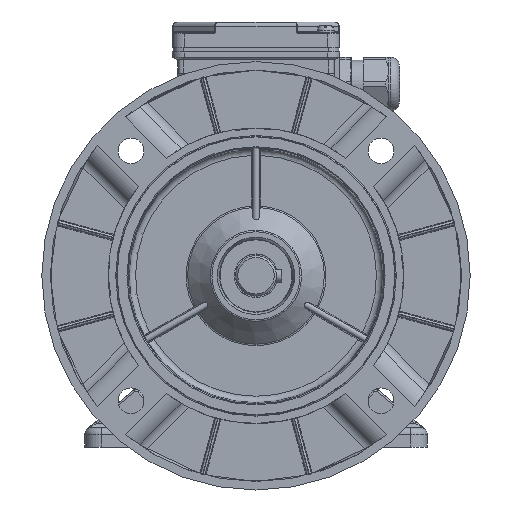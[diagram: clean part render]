
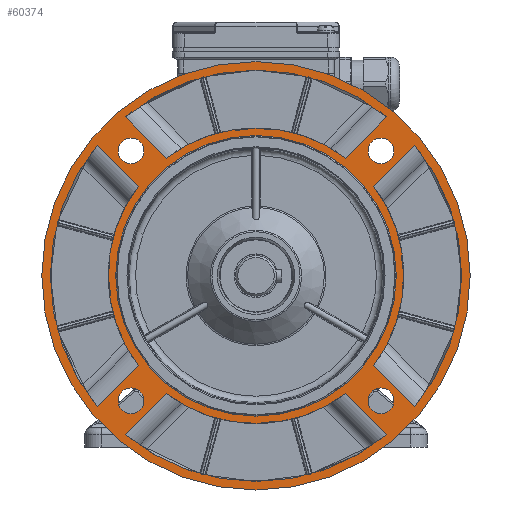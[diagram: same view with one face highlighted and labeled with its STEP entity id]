
A CAD part, left-side view. The second image highlights one B-rep face of the part: STEP entity #60374.
In plain terms, the highlighted planar face has unit normal (-1, 0, 0).
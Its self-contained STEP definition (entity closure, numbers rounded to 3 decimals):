
#2186=LINE('',#87335,#5763);
#2187=LINE('',#87340,#5764);
#2188=LINE('',#87343,#5765);
#2189=LINE('',#87348,#5766);
#2190=LINE('',#87353,#5767);
#2191=LINE('',#87358,#5768);
#2192=LINE('',#87361,#5769);
#2193=LINE('',#87366,#5770);
#5763=VECTOR('',#69918,1000.);
#5764=VECTOR('',#69921,1000.);
#5765=VECTOR('',#69924,1000.);
#5766=VECTOR('',#69927,1000.);
#5767=VECTOR('',#69932,1000.);
#5768=VECTOR('',#69935,1000.);
#5769=VECTOR('',#69938,1000.);
#5770=VECTOR('',#69941,1000.);
#9053=PLANE('',#63390);
#13565=ORIENTED_EDGE('',*,*,#25287,.T.);
#13566=ORIENTED_EDGE('',*,*,#25288,.T.);
#13567=ORIENTED_EDGE('',*,*,#25289,.T.);
#13568=ORIENTED_EDGE('',*,*,#25290,.T.);
#13569=ORIENTED_EDGE('',*,*,#25291,.T.);
#13570=ORIENTED_EDGE('',*,*,#25292,.T.);
#13571=ORIENTED_EDGE('',*,*,#25293,.T.);
#13572=ORIENTED_EDGE('',*,*,#25294,.T.);
#13573=ORIENTED_EDGE('',*,*,#25249,.F.);
#13574=ORIENTED_EDGE('',*,*,#25248,.F.);
#13575=ORIENTED_EDGE('',*,*,#25247,.F.);
#13576=ORIENTED_EDGE('',*,*,#25246,.F.);
#13577=ORIENTED_EDGE('',*,*,#25295,.T.);
#13578=ORIENTED_EDGE('',*,*,#25286,.T.);
#13579=ORIENTED_EDGE('',*,*,#25296,.T.);
#13580=ORIENTED_EDGE('',*,*,#25297,.T.);
#13581=ORIENTED_EDGE('',*,*,#25298,.T.);
#13582=ORIENTED_EDGE('',*,*,#25299,.T.);
#13583=ORIENTED_EDGE('',*,*,#25300,.T.);
#13584=ORIENTED_EDGE('',*,*,#25301,.T.);
#13585=ORIENTED_EDGE('',*,*,#25302,.T.);
#13586=ORIENTED_EDGE('',*,*,#25303,.T.);
#25246=EDGE_CURVE('',#31360,#31360,#35194,.T.);
#25247=EDGE_CURVE('',#31361,#31361,#35195,.T.);
#25248=EDGE_CURVE('',#31362,#31362,#35196,.T.);
#25249=EDGE_CURVE('',#31363,#31363,#35197,.T.);
#25286=EDGE_CURVE('',#31384,#31384,#35207,.T.);
#25287=EDGE_CURVE('',#31385,#31386,#2186,.T.);
#25288=EDGE_CURVE('',#31386,#31387,#35208,.T.);
#25289=EDGE_CURVE('',#31387,#31388,#2187,.T.);
#25290=EDGE_CURVE('',#31388,#31385,#35209,.T.);
#25291=EDGE_CURVE('',#31389,#31390,#2188,.T.);
#25292=EDGE_CURVE('',#31390,#31391,#35210,.T.);
#25293=EDGE_CURVE('',#31391,#31392,#2189,.T.);
#25294=EDGE_CURVE('',#31392,#31389,#35211,.T.);
#25295=EDGE_CURVE('',#31393,#31393,#35212,.F.);
#25296=EDGE_CURVE('',#31394,#31395,#2190,.T.);
#25297=EDGE_CURVE('',#31395,#31396,#35213,.T.);
#25298=EDGE_CURVE('',#31396,#31397,#2191,.T.);
#25299=EDGE_CURVE('',#31397,#31394,#35214,.T.);
#25300=EDGE_CURVE('',#31398,#31399,#2192,.T.);
#25301=EDGE_CURVE('',#31399,#31400,#35215,.T.);
#25302=EDGE_CURVE('',#31400,#31401,#2193,.T.);
#25303=EDGE_CURVE('',#31401,#31398,#35216,.T.);
#31360=VERTEX_POINT('',#87177);
#31361=VERTEX_POINT('',#87180);
#31362=VERTEX_POINT('',#87183);
#31363=VERTEX_POINT('',#87186);
#31384=VERTEX_POINT('',#87333);
#31385=VERTEX_POINT('',#87336);
#31386=VERTEX_POINT('',#87337);
#31387=VERTEX_POINT('',#87339);
#31388=VERTEX_POINT('',#87341);
#31389=VERTEX_POINT('',#87344);
#31390=VERTEX_POINT('',#87345);
#31391=VERTEX_POINT('',#87347);
#31392=VERTEX_POINT('',#87349);
#31393=VERTEX_POINT('',#87352);
#31394=VERTEX_POINT('',#87354);
#31395=VERTEX_POINT('',#87355);
#31396=VERTEX_POINT('',#87357);
#31397=VERTEX_POINT('',#87359);
#31398=VERTEX_POINT('',#87362);
#31399=VERTEX_POINT('',#87363);
#31400=VERTEX_POINT('',#87365);
#31401=VERTEX_POINT('',#87367);
#35194=CIRCLE('',#63354,6.);
#35195=CIRCLE('',#63356,6.);
#35196=CIRCLE('',#63358,6.);
#35197=CIRCLE('',#63360,6.);
#35207=CIRCLE('',#63389,100.);
#35208=CIRCLE('',#63391,69.);
#35209=CIRCLE('',#63392,96.);
#35210=CIRCLE('',#63393,69.);
#35211=CIRCLE('',#63394,96.);
#35212=CIRCLE('',#63395,65.5);
#35213=CIRCLE('',#63396,69.);
#35214=CIRCLE('',#63397,96.);
#35215=CIRCLE('',#63398,69.);
#35216=CIRCLE('',#63399,96.);
#37385=EDGE_LOOP('',(#13565,#13566,#13567,#13568));
#37386=EDGE_LOOP('',(#13569,#13570,#13571,#13572));
#37387=EDGE_LOOP('',(#13573));
#37388=EDGE_LOOP('',(#13574));
#37389=EDGE_LOOP('',(#13575));
#37390=EDGE_LOOP('',(#13576));
#37391=EDGE_LOOP('',(#13577));
#37392=EDGE_LOOP('',(#13578));
#37393=EDGE_LOOP('',(#13579,#13580,#13581,#13582));
#37394=EDGE_LOOP('',(#13583,#13584,#13585,#13586));
#40388=FACE_BOUND('',#37385,.T.);
#40389=FACE_BOUND('',#37386,.T.);
#40390=FACE_BOUND('',#37387,.T.);
#40391=FACE_BOUND('',#37388,.T.);
#40392=FACE_BOUND('',#37389,.T.);
#40393=FACE_BOUND('',#37390,.T.);
#40394=FACE_BOUND('',#37391,.T.);
#40395=FACE_BOUND('',#37392,.T.);
#40396=FACE_BOUND('',#37393,.T.);
#40397=FACE_BOUND('',#37394,.T.);
#60374=ADVANCED_FACE('',(#40388,#40389,#40390,#40391,#40392,#40393,#40394,
#40395,#40396,#40397),#9053,.T.);
#63354=AXIS2_PLACEMENT_3D('',#87176,#69828,#69829);
#63356=AXIS2_PLACEMENT_3D('',#87179,#69832,#69833);
#63358=AXIS2_PLACEMENT_3D('',#87182,#69836,#69837);
#63360=AXIS2_PLACEMENT_3D('',#87185,#69840,#69841);
#63389=AXIS2_PLACEMENT_3D('',#87332,#69914,#69915);
#63390=AXIS2_PLACEMENT_3D('',#87334,#69916,#69917);
#63391=AXIS2_PLACEMENT_3D('',#87338,#69919,#69920);
#63392=AXIS2_PLACEMENT_3D('',#87342,#69922,#69923);
#63393=AXIS2_PLACEMENT_3D('',#87346,#69925,#69926);
#63394=AXIS2_PLACEMENT_3D('',#87350,#69928,#69929);
#63395=AXIS2_PLACEMENT_3D('',#87351,#69930,#69931);
#63396=AXIS2_PLACEMENT_3D('',#87356,#69933,#69934);
#63397=AXIS2_PLACEMENT_3D('',#87360,#69936,#69937);
#63398=AXIS2_PLACEMENT_3D('',#87364,#69939,#69940);
#63399=AXIS2_PLACEMENT_3D('',#87368,#69942,#69943);
#69828=DIRECTION('',(-1.,0.,0.));
#69829=DIRECTION('',(0.,-1.,0.));
#69832=DIRECTION('',(-1.,0.,0.));
#69833=DIRECTION('',(0.,-1.,0.));
#69836=DIRECTION('',(-1.,0.,0.));
#69837=DIRECTION('',(0.,-1.,0.));
#69840=DIRECTION('',(-1.,0.,0.));
#69841=DIRECTION('',(0.,-1.,0.));
#69914=DIRECTION('',(-1.,0.,0.));
#69915=DIRECTION('',(0.,0.,-1.));
#69916=DIRECTION('',(-1.,0.,0.));
#69917=DIRECTION('',(0.,0.,-1.));
#69918=DIRECTION('',(0.,-0.707,-0.707));
#69919=DIRECTION('',(-1.,0.,0.));
#69920=DIRECTION('',(0.,-1.,0.));
#69921=DIRECTION('',(0.,0.707,-0.707));
#69922=DIRECTION('',(1.,0.,0.));
#69923=DIRECTION('',(0.,-1.,0.));
#69924=DIRECTION('',(0.,0.707,0.707));
#69925=DIRECTION('',(-1.,0.,0.));
#69926=DIRECTION('',(0.,1.,0.));
#69927=DIRECTION('',(0.,-0.707,0.707));
#69928=DIRECTION('',(1.,0.,0.));
#69929=DIRECTION('',(0.,1.,0.));
#69930=DIRECTION('',(-1.,0.,0.));
#69931=DIRECTION('',(0.,0.,-1.));
#69932=DIRECTION('',(0.,-0.707,0.707));
#69933=DIRECTION('',(-1.,0.,0.));
#69934=DIRECTION('',(0.,0.,1.));
#69935=DIRECTION('',(0.,-0.707,-0.707));
#69936=DIRECTION('',(1.,0.,0.));
#69937=DIRECTION('',(0.,0.,1.));
#69938=DIRECTION('',(0.,0.707,-0.707));
#69939=DIRECTION('',(-1.,0.,0.));
#69940=DIRECTION('',(0.,0.,-1.));
#69941=DIRECTION('',(0.,0.707,0.707));
#69942=DIRECTION('',(1.,0.,0.));
#69943=DIRECTION('',(0.,0.,-1.));
#87176=CARTESIAN_POINT('',(-44.8,58.336,58.336));
#87177=CARTESIAN_POINT('',(-44.8,52.336,58.336));
#87179=CARTESIAN_POINT('',(-44.8,-58.336,58.336));
#87180=CARTESIAN_POINT('',(-44.8,-64.336,58.336));
#87182=CARTESIAN_POINT('',(-44.8,-58.336,-58.336));
#87183=CARTESIAN_POINT('',(-44.8,-64.336,-58.336));
#87185=CARTESIAN_POINT('',(-44.8,58.336,-58.336));
#87186=CARTESIAN_POINT('',(-44.8,52.336,-58.336));
#87332=CARTESIAN_POINT('',(-44.8,0.,0.));
#87333=CARTESIAN_POINT('',(-44.8,0.,-100.));
#87334=CARTESIAN_POINT('',(-44.8,0.,-65.));
#87335=CARTESIAN_POINT('',(-44.8,53.605,40.403));
#87336=CARTESIAN_POINT('',(-44.8,74.161,60.96));
#87337=CARTESIAN_POINT('',(-44.8,54.943,41.741));
#87338=CARTESIAN_POINT('',(-44.8,0.,0.));
#87339=CARTESIAN_POINT('',(-44.8,54.943,-41.741));
#87340=CARTESIAN_POINT('',(-44.8,73.211,-60.009));
#87341=CARTESIAN_POINT('',(-44.8,74.161,-60.96));
#87342=CARTESIAN_POINT('',(-44.8,0.,0.));
#87343=CARTESIAN_POINT('',(-44.8,-53.605,-40.403));
#87344=CARTESIAN_POINT('',(-44.8,-74.161,-60.96));
#87345=CARTESIAN_POINT('',(-44.8,-54.943,-41.741));
#87346=CARTESIAN_POINT('',(-44.8,0.,0.));
#87347=CARTESIAN_POINT('',(-44.8,-54.943,41.741));
#87348=CARTESIAN_POINT('',(-44.8,-73.211,60.009));
#87349=CARTESIAN_POINT('',(-44.8,-74.161,60.96));
#87350=CARTESIAN_POINT('',(-44.8,0.,0.));
#87351=CARTESIAN_POINT('',(-44.8,0.,0.));
#87352=CARTESIAN_POINT('',(-44.8,0.,-65.5));
#87353=CARTESIAN_POINT('',(-44.8,40.403,-53.605));
#87354=CARTESIAN_POINT('',(-44.8,60.96,-74.161));
#87355=CARTESIAN_POINT('',(-44.8,41.741,-54.943));
#87356=CARTESIAN_POINT('',(-44.8,0.,0.));
#87357=CARTESIAN_POINT('',(-44.8,-41.741,-54.943));
#87358=CARTESIAN_POINT('',(-44.8,-60.009,-73.211));
#87359=CARTESIAN_POINT('',(-44.8,-60.96,-74.161));
#87360=CARTESIAN_POINT('',(-44.8,0.,0.));
#87361=CARTESIAN_POINT('',(-44.8,-40.403,53.605));
#87362=CARTESIAN_POINT('',(-44.8,-60.96,74.161));
#87363=CARTESIAN_POINT('',(-44.8,-41.741,54.943));
#87364=CARTESIAN_POINT('',(-44.8,0.,0.));
#87365=CARTESIAN_POINT('',(-44.8,41.741,54.943));
#87366=CARTESIAN_POINT('',(-44.8,60.009,73.211));
#87367=CARTESIAN_POINT('',(-44.8,60.96,74.161));
#87368=CARTESIAN_POINT('',(-44.8,0.,0.));
